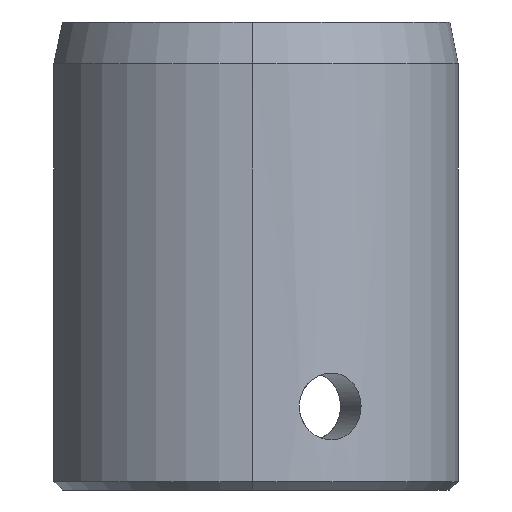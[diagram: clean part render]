
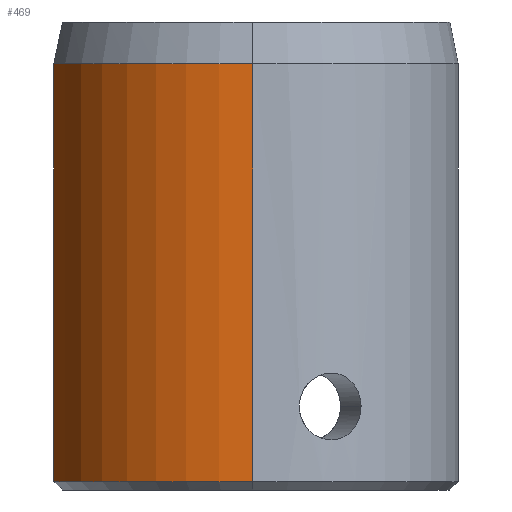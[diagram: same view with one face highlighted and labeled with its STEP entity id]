
A CAD part, left-side view. The second image highlights one B-rep face of the part: STEP entity #469.
In plain terms, the highlighted cylindrical face has radius 24.606 mm (diameter 49.212 mm), a partial arc.
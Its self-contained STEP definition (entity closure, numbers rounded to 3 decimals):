
#38 = VERTEX_POINT ( 'NONE', #651 ) ;
#43 = EDGE_CURVE ( 'NONE', #348, #516, #398, .T. ) ;
#62 = ORIENTED_EDGE ( 'NONE', *, *, #43, .T. ) ;
#95 = CARTESIAN_POINT ( 'NONE',  ( -24.606, 0., -27. ) ) ;
#200 = EDGE_LOOP ( 'NONE', ( #618, #62, #450, #399 ) ) ;
#215 = DIRECTION ( 'NONE',  ( 0., 0., -1. ) ) ;
#216 = VECTOR ( 'NONE', #215, 1000. ) ;
#218 = CARTESIAN_POINT ( 'NONE',  ( -6.35, 23.773, 28. ) ) ;
#220 = DIRECTION ( 'NONE',  ( 0., 0., -1. ) ) ;
#229 = LINE ( 'NONE', #467, #628 ) ;
#231 = CARTESIAN_POINT ( 'NONE',  ( 0., 0., 28. ) ) ;
#237 = DIRECTION ( 'NONE',  ( -1., 0., 0. ) ) ;
#289 = AXIS2_PLACEMENT_3D ( 'NONE', #718, #611, #802 ) ;
#348 = VERTEX_POINT ( 'NONE', #816 ) ;
#398 = CIRCLE ( 'NONE', #468, 24.606 ) ;
#399 = ORIENTED_EDGE ( 'NONE', *, *, #1018, .T. ) ;
#435 = CYLINDRICAL_SURFACE ( 'NONE', #456, 24.606 ) ;
#450 = ORIENTED_EDGE ( 'NONE', *, *, #455, .T. ) ;
#455 = EDGE_CURVE ( 'NONE', #516, #38, #916, .T. ) ;
#456 = AXIS2_PLACEMENT_3D ( 'NONE', #231, #220, #237 ) ;
#460 = CARTESIAN_POINT ( 'NONE',  ( -6.35, 23.773, 23. ) ) ;
#467 = CARTESIAN_POINT ( 'NONE',  ( -24.606, 0., 28. ) ) ;
#468 = AXIS2_PLACEMENT_3D ( 'NONE', #773, #554, #576 ) ;
#469 = ADVANCED_FACE ( 'NONE', ( #894 ), #435, .T. ) ;
#472 = DIRECTION ( 'NONE',  ( 0., 0., -1. ) ) ;
#516 = VERTEX_POINT ( 'NONE', #460 ) ;
#554 = DIRECTION ( 'NONE',  ( 0., 0., -1. ) ) ;
#576 = DIRECTION ( 'NONE',  ( 1., 0., 0. ) ) ;
#611 = DIRECTION ( 'NONE',  ( 0., 0., 1. ) ) ;
#618 = ORIENTED_EDGE ( 'NONE', *, *, #863, .F. ) ;
#628 = VECTOR ( 'NONE', #472, 1000. ) ;
#651 = CARTESIAN_POINT ( 'NONE',  ( -6.35, 23.773, -27. ) ) ;
#718 = CARTESIAN_POINT ( 'NONE',  ( 0., 0., -27. ) ) ;
#736 = CIRCLE ( 'NONE', #289, 24.606 ) ;
#773 = CARTESIAN_POINT ( 'NONE',  ( 0., 0., 23. ) ) ;
#802 = DIRECTION ( 'NONE',  ( 1., 0., 0. ) ) ;
#816 = CARTESIAN_POINT ( 'NONE',  ( -24.606, 0., 23. ) ) ;
#863 = EDGE_CURVE ( 'NONE', #348, #1082, #229, .T. ) ;
#894 = FACE_OUTER_BOUND ( 'NONE', #200, .T. ) ;
#916 = LINE ( 'NONE', #218, #216 ) ;
#1018 = EDGE_CURVE ( 'NONE', #38, #1082, #736, .T. ) ;
#1082 = VERTEX_POINT ( 'NONE', #95 ) ;
